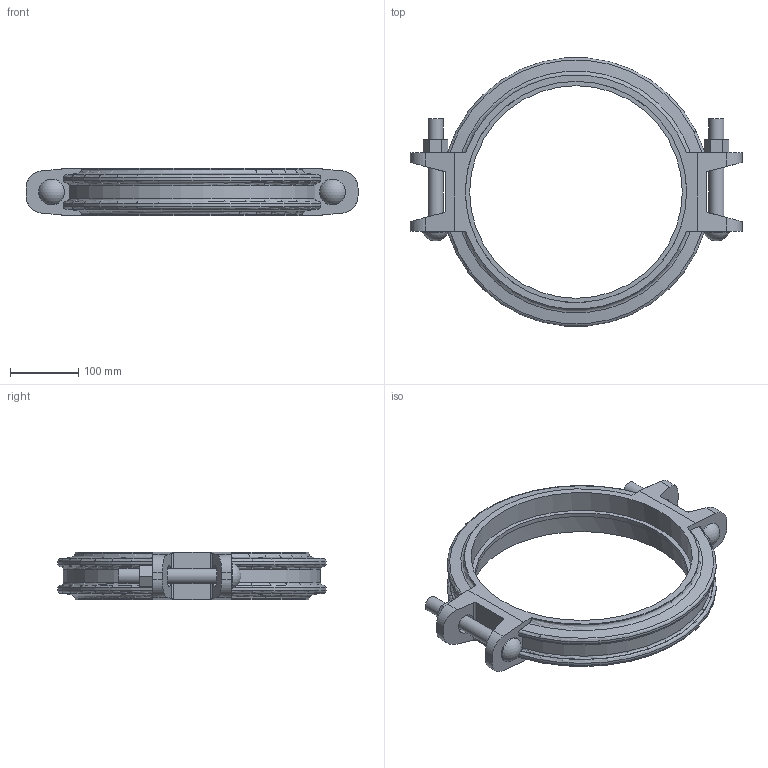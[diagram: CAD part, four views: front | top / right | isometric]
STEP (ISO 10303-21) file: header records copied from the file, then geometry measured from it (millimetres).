
FILE_DESCRIPTION(/* description */ ('VICTAULIC STYLE 009N FIRELOCK EZ RIGID COUPLING','CAx-IF Rec.Pracs.---Representation and Presentation of Product Manufacturing Information (PMI)---4.0---2014-10-13'),/* implementation_level */ '2;1');
FILE_NAME(/* name */ 'C:\Users\Vjadhav\AppData\Roaming\Autodesk\ApplicationPlugins\Victaulic.Temp\A361\Victaulic_FP-FireLock_Coupling Rigid_IR_Style 009N (OGS)_12 (300).stp',/* time_stamp */ '2022-03-23T18:55:56+05:00',/* author */ ('Vjadhav'),/* organization */ ('Victaulic'),/* preprocessor_version */ 'ST-DEVELOPER v17.2',/* originating_system */ 'Autodesk Inventor 2019',/* authorisation */ '');
FILE_SCHEMA (('AP242_MANAGED_MODEL_BASED_3D_ENGINEERING_MIM_LF { 1 0 10303 442 1 1 4 }'));
Length unit declared in the file: inch
Products named in the file (2): 009N-12.0; 009N-12.0_1
Assembly tree (1 placements, depth 2):
  009N-12.0
    009N-12.0_1
Bounding box: 485.9 x 392.28 x 69.85 mm (x, y, z)
Volume: 2495078.1 mm3; surface area: 303966 mm2
Topology: 1 solids, 1 shells, 115 faces, 327 edges, 222 vertices
Faces by surface type: plane 54, cylinder 39, torus 16, cone 4, sphere 2
Full cylindrical faces by diameter (mm): 22.225 x4, 37.694 x2, 311.15 x1, 323.85 x2
Entity records: 4419 total; most frequent: CARTESIAN_POINT 1163, ORIENTED_EDGE 654, DIRECTION 637, EDGE_CURVE 327, AXIS2_PLACEMENT_3D 232, VERTEX_POINT 222, LINE 173, VECTOR 173
